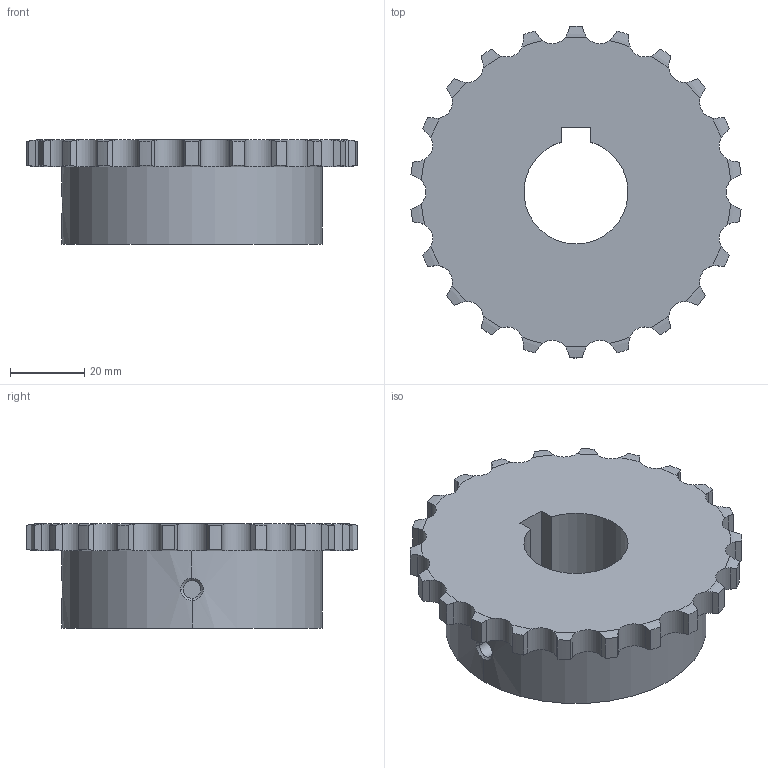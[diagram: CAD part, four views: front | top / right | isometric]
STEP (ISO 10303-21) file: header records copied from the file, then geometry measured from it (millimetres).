
FILE_DESCRIPTION((''),'2;1');
FILE_NAME('510-201-2822_PRT','2021-02-13T',('Brieden'),('Brieden'),'PRO/ENGINEER BY PARAMETRIC TECHNOLOGY CORPORATION, 2010160','PRO/ENGINEER BY PARAMETRIC TECHNOLOGY CORPORATION, 2010160','');
FILE_SCHEMA(('AUTOMOTIVE_DESIGN { 1 0 10303 214 1 1 1 1 }'));
Length unit declared in the file: millimetre
Products named in the file (1): 510-201-2822_PRT
Bounding box: 88.74 x 89.23 x 28 mm (x, y, z)
Volume: 101933.4 mm3; surface area: 20150.2 mm2
Topology: 1 solids, 1 shells, 153 faces, 441 edges, 292 vertices
Faces by surface type: cylinder 95, torus 44, plane 8, bspline 6
Entity records: 7408 total; most frequent: CARTESIAN_POINT 2245, ORIENTED_EDGE 882, DIRECTION 689, PRESENTATION_STYLE_ASSIGNMENT 442, STYLED_ITEM 442, CURVE_STYLE 441, EDGE_CURVE 441, VERTEX_POINT 292
